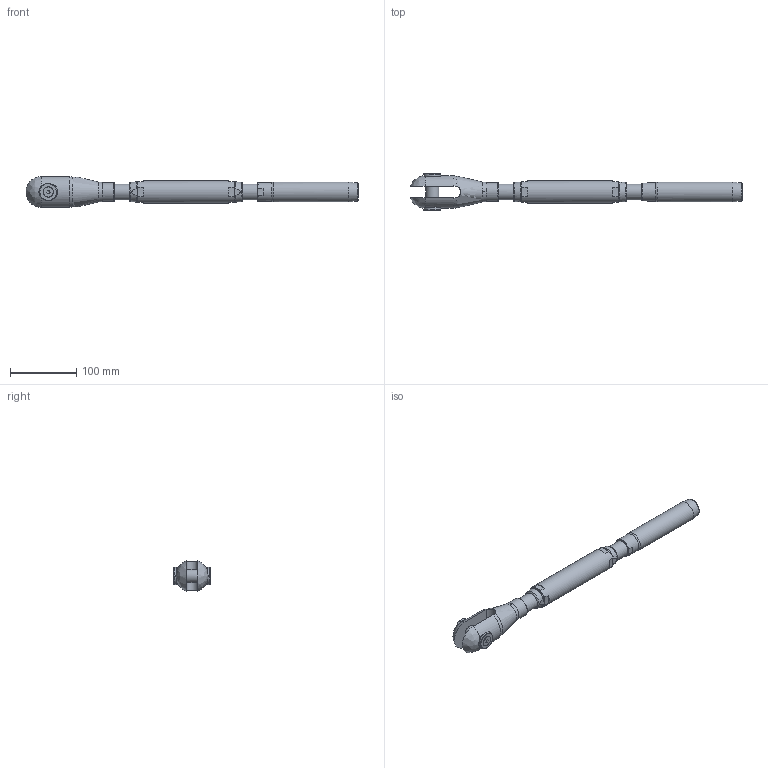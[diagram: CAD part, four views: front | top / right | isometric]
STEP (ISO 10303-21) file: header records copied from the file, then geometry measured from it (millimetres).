
FILE_DESCRIPTION(/* description */ (''),/* implementation_level */ '2;1');
FILE_NAME(/* name */ 'TBC 14_1,4462',/* time_stamp */ '2023-05-23T18:17:03+02:00',/* author */ (''),/* organization */ (''),/* preprocessor_version */ 'ST-DEVELOPER v16.5',/* originating_system */ 'Rhino 7.22',/* authorisation */ '');
FILE_SCHEMA (('CONFIG_CONTROL_DESIGN'));
Length unit declared in the file: millimetre
Products named in the file (1): Document
Bounding box: 499.92 x 55.57 x 45.96 mm (x, y, z)
Volume: 383140.8 mm3; surface area: 93401.2 mm2
Topology: 10 solids, 10 shells, 141 faces, 383 edges, 264 vertices
Faces by surface type: plane 65, bspline 41, cylinder 35
Full cylindrical faces by diameter (mm): 6.647 x2, 8 x2, 8.5 x2, 15.24 x2, 20 x1, 20.752 x4, 21 x2, 24 x2, 26 x2, 28 x1, 28.6 x2, 30 x1, 34 x1
Entity records: 5882 total; most frequent: CARTESIAN_POINT 3450, ORIENTED_EDGE 758, EDGE_CURVE 379, VERTEX_POINT 264, EDGE_LOOP 161, B_SPLINE_CURVE_WITH_KNOTS 158, ADVANCED_FACE 141, FACE_OUTER_BOUND 141
